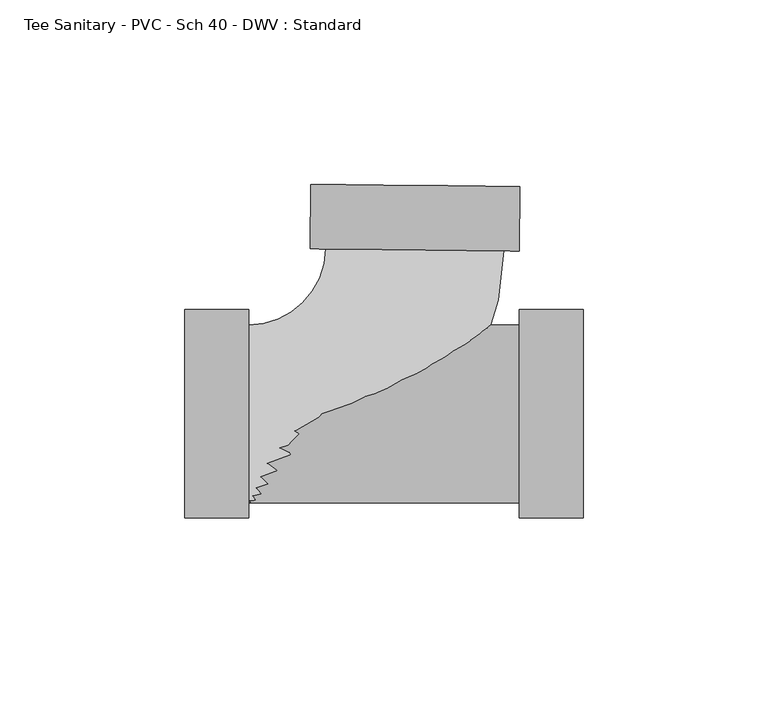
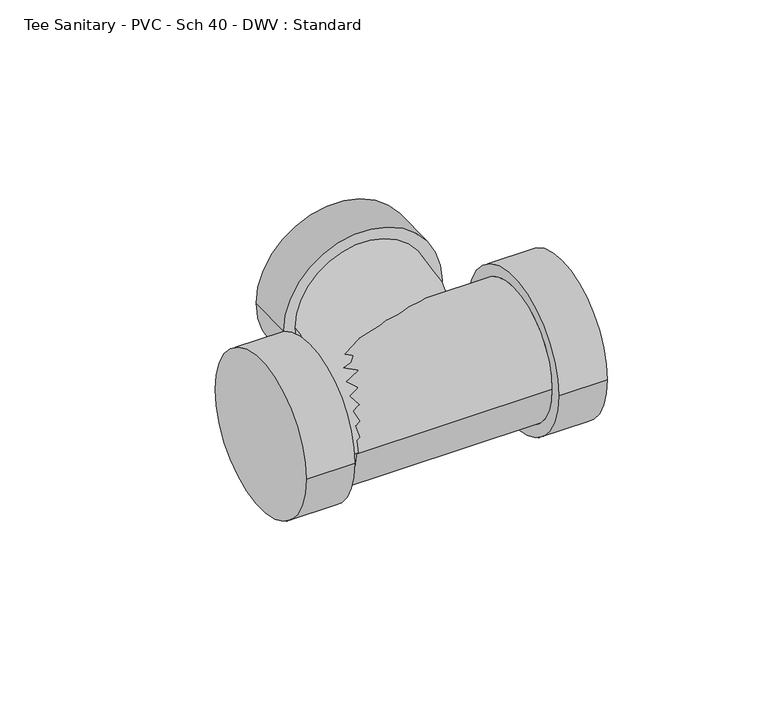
"""IFC4 building model written with IfcOpenShell, lengths in millimetres: pipe fitting geometry, Tee Sanitary - PVC - Sch 40 - DWV : Standard."""

from ifc_helpers import new_model, si_unit, point, frame, origin, place, context, project, spatial, circle_curve, ellipse_curve, trimmed, source, transform, mapped, element, save
from ifc_brep_helpers import plane_surface, cylinder_surface, revolved_surface, advanced_brep


def tee_sanitary_pvc_sch_40_dwv_standard_3578d342(model_context):
    return source(origin(), model_context, "Body", "AdvancedBrep", [
        advanced_brep(
        [(-44.45, 24.13, 0.0), (-44.45, -24.13, 0.0), (24.5916867, 44.1962481, 0.0), (-23.6656953, 44.6989292, 0.0), (28.9261203, 61.6018444, 0.0), (-27.6366111, 62.1910396, 0.0), (28.7443614, 44.1529911, 0.0), (-27.81837, 44.7421862, 0.0)],
        [
            (0, 1, circle_curve(frame((-44.45, 0.0, 0.0), z_axis=(-1.0, 0.0, 0.0), x_axis=(0.0, -1.0, 0.0)), 24.13)),
            (1, 0, circle_curve(frame((-44.45, 0.0, 0.0), z_axis=(-1.0, 0.0, 0.0), x_axis=(0.0, -1.0, 0.0)), 24.13)),
            (1, 2, circle_curve(frame((-44.45, 44.9154323, 0.0), z_axis=(0.0, 0.0, 1.0), x_axis=(0.0, -1.0, 0.0)), 69.0454323)),
            (2, 3, circle_curve(frame((0.4629957, 44.4475886, 0.0), z_axis=(-0.01041610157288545, -0.9999457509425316, 0.0), x_axis=(0.9999457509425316, -0.01041610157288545, 0.0)), 24.13)),
            (3, 0, circle_curve(frame((-44.45, 44.9154323, 0.0), z_axis=(0.0, 0.0, -1.0), x_axis=(0.0, -1.0, 0.0)), 20.7854323)),
            (3, 2, circle_curve(frame((0.4629957, 44.4475886, 0.0), z_axis=(-0.010416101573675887, -0.9999457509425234, 0.0), x_axis=(0.9999457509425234, -0.010416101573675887, 0.0)), 24.13)),
            (4, 5, circle_curve(frame((0.6447546, 61.896442, 0.0), z_axis=(0.010416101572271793, 0.999945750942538, 0.0), x_axis=(-0.999945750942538, 0.010416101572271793, 0.0)), 28.2829)),
            (5, 4, circle_curve(frame((0.6447546, 61.896442, 0.0), z_axis=(0.010416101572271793, 0.999945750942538, 0.0), x_axis=(-0.999945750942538, 0.010416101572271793, 0.0)), 28.2829)),
            (6, 7, circle_curve(frame((0.4629957, 44.4475886, 0.0), z_axis=(-0.010416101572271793, -0.999945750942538, 0.0), x_axis=(-0.999945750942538, 0.010416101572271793, 0.0)), 28.2829)),
            (7, 6, circle_curve(frame((0.4629957, 44.4475886, 0.0), z_axis=(-0.010416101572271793, -0.999945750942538, 0.0), x_axis=(-0.999945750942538, 0.010416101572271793, 0.0)), 28.2829)),
            (5, 7),
            (6, 4),
        ],
        [
            plane_surface(frame((-44.45, 0.0, 0.0), z_axis=(-1.0, 0.0, 0.0), x_axis=(0.0, 0.0, 1.0))),
            revolved_surface(trimmed(ellipse_curve(frame((-44.45, 0.0, 0.0), z_axis=(1.0, 0.0, 0.0), x_axis=(0.0, -1.0, 0.0)), 24.13, 24.13), [point((-44.45, 24.13, 0.0))], [point((-44.45, -24.13, 0.0))], True, "CARTESIAN"), (-44.45, 44.9154323, 0.0), (0.0, 0.0, -1.0)),
            revolved_surface(trimmed(ellipse_curve(frame((-44.45, 0.0, 0.0), z_axis=(1.0, 0.0, 0.0), x_axis=(0.0, -1.0, 0.0)), 24.13, 24.13), [point((-44.45, -24.13, 0.0))], [point((-44.45, 24.13, 0.0))], True, "CARTESIAN"), (-44.45, 44.9154323, 0.0), (0.0, 0.0, -1.0)),
            plane_surface(frame((0.6447546, 61.896442, 0.0), z_axis=(0.010416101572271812, 0.999945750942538, 0.0), x_axis=(0.0, 0.0, 1.0))),
            plane_surface(frame((0.4629957, 44.4475886, 0.0), z_axis=(-0.010416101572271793, -0.999945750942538, 0.0), x_axis=(0.0, 0.0, 1.0))),
            cylinder_surface(frame((0.6447546, 61.896442, 0.0), z_axis=(0.010416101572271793, 0.999945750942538, 0.0), x_axis=(-0.999945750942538, 0.010416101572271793, 0.0)), 28.2829),
        ],
        [
            (0, [[1, 2]]),
            (1, [[3, 4, 5, -2]]),
            (2, [[-5, 6, -3, -1]]),
            (3, [[7, 8]]),
            (4, [[9, 10], [-6, -4]]),
            (5, [[11, -9, 12, -8]]),
            (5, [[-12, -10, -11, -7]]),
        ],
    ),
        advanced_brep(
        [(-44.45, 24.13, 0.0), (-44.45, -24.13, 0.0), (28.7443614, -24.13, 0.0), (28.7443614, 24.13, 0.0), (28.7443614, 28.2829, 0.0), (28.7443614, -28.2829, 0.0), (46.1941614, 28.2829, 0.0), (46.1941614, -28.2829, 0.0), (-61.8998, 28.2829, 0.0), (-61.8998, -28.2829, 0.0), (-44.45, 28.2829, 0.0), (-44.45, -28.2829, 0.0)],
        [
            (0, 1, circle_curve(frame((-44.45, 0.0, 0.0), z_axis=(1.0, 0.0, 0.0), x_axis=(0.0, -1.0, 0.0)), 24.13)),
            (1, 2),
            (2, 3, circle_curve(frame((28.7443614, 0.0, 0.0), z_axis=(-1.0, 0.0, 0.0), x_axis=(0.0, -1.0, 0.0)), 24.13)),
            (3, 0),
            (3, 2, circle_curve(frame((28.7443614, 0.0, 0.0), z_axis=(-1.0, 0.0, 0.0), x_axis=(0.0, -1.0, 0.0)), 24.13)),
            (1, 0, circle_curve(frame((-44.45, 0.0, 0.0), z_axis=(1.0, 0.0, 0.0), x_axis=(0.0, -1.0, 0.0)), 24.13)),
            (4, 5, circle_curve(frame((28.7443614, 0.0, 0.0), z_axis=(-1.0, 0.0, 0.0), x_axis=(0.0, -1.0, 0.0)), 28.2829)),
            (5, 4, circle_curve(frame((28.7443614, 0.0, 0.0), z_axis=(-1.0, 0.0, 0.0), x_axis=(0.0, -1.0, 0.0)), 28.2829)),
            (6, 7, circle_curve(frame((46.1941614, 0.0, 0.0), z_axis=(1.0, 0.0, 0.0), x_axis=(0.0, -1.0, 0.0)), 28.2829)),
            (7, 6, circle_curve(frame((46.1941614, 0.0, 0.0), z_axis=(1.0, 0.0, 0.0), x_axis=(0.0, -1.0, 0.0)), 28.2829)),
            (5, 7),
            (6, 4),
            (8, 9, circle_curve(frame((-61.8998, 0.0, 0.0), z_axis=(-1.0, 0.0, 0.0), x_axis=(0.0, -1.0, 0.0)), 28.2829)),
            (9, 8, circle_curve(frame((-61.8998, 0.0, 0.0), z_axis=(-1.0, 0.0, 0.0), x_axis=(0.0, -1.0, 0.0)), 28.2829)),
            (10, 11, circle_curve(frame((-44.45, 0.0, 0.0), z_axis=(1.0, 0.0, 0.0), x_axis=(0.0, -1.0, 0.0)), 28.2829)),
            (11, 10, circle_curve(frame((-44.45, 0.0, 0.0), z_axis=(1.0, 0.0, 0.0), x_axis=(0.0, -1.0, 0.0)), 28.2829)),
            (9, 11),
            (10, 8),
        ],
        [
            cylinder_surface(frame((-44.45, 0.0, 0.0), z_axis=(-1.0, 0.0, 0.0), x_axis=(0.0, -1.0, 0.0)), 24.13),
            plane_surface(frame((28.7443614, 0.0, 0.0), z_axis=(-1.0, 0.0, 0.0), x_axis=(0.0, 0.0, 1.0))),
            plane_surface(frame((46.1941614, 0.0, 0.0), z_axis=(1.0, 0.0, 0.0), x_axis=(0.0, 0.0, 1.0))),
            cylinder_surface(frame((28.7443614, 0.0, 0.0), z_axis=(-1.0, 0.0, 0.0), x_axis=(0.0, -1.0, 0.0)), 28.2829),
            plane_surface(frame((-61.8998, 0.0, 0.0), z_axis=(-1.0, 0.0, 0.0), x_axis=(0.0, 0.0, 1.0))),
            plane_surface(frame((-44.45, 0.0, 0.0), z_axis=(1.0, 0.0, 0.0), x_axis=(0.0, 0.0, 1.0))),
            cylinder_surface(frame((-61.8998, 0.0, 0.0), z_axis=(-1.0, 0.0, 0.0), x_axis=(0.0, -1.0, 0.0)), 28.2829),
        ],
        [
            (0, [[1, 2, 3, 4]]),
            (0, [[5, -2, 6, -4]]),
            (1, [[7, 8], [-5, -3]]),
            (2, [[9, 10]]),
            (3, [[11, -9, 12, -8]]),
            (3, [[-12, -10, -11, -7]]),
            (4, [[13, 14]]),
            (5, [[15, 16], [-6, -1]]),
            (6, [[17, -15, 18, -14]]),
            (6, [[-18, -16, -17, -13]]),
        ],
    ),
    ])


if __name__ == "__main__":
    model = new_model("IFC4")
    model_context = context("Model", 3, world=origin())
    ifc_project = project(units=[si_unit("LENGTHUNIT", "METRE", prefix="MILLI")], contexts=[model_context])
    site = spatial("IfcSite", under=ifc_project)
    building = spatial("IfcBuilding", under=site)
    placement = place(None, origin())
    tee_sanitary_pvc_sch_40_dwv_standard_shape = tee_sanitary_pvc_sch_40_dwv_standard_3578d342(model_context)
    element("IfcPipeFitting", 1, ObjectType="Tee Sanitary - PVC - Sch 40 - DWV : Standard", at=placement, inside=building, context=model_context, shape_type="MappedRepresentation", body=[
        mapped(tee_sanitary_pvc_sch_40_dwv_standard_shape, transform((0.0, 0.0, 0.0), x_axis=(1.0, 0.0, 0.0), y_axis=(0.0, 1.0, 0.0), z_axis=(0.0, 0.0, 1.0))),
    ])
    save(model, "model.ifc")
